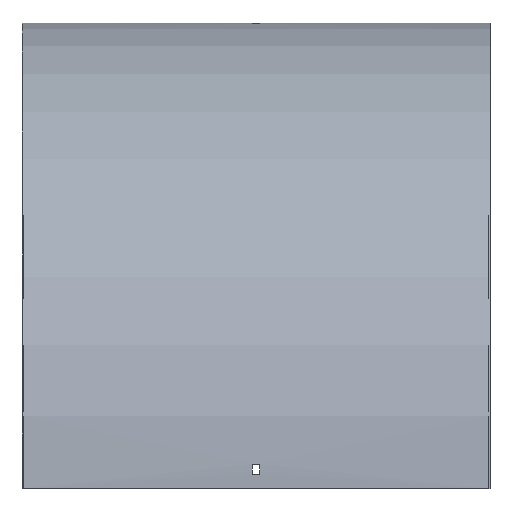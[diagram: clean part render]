
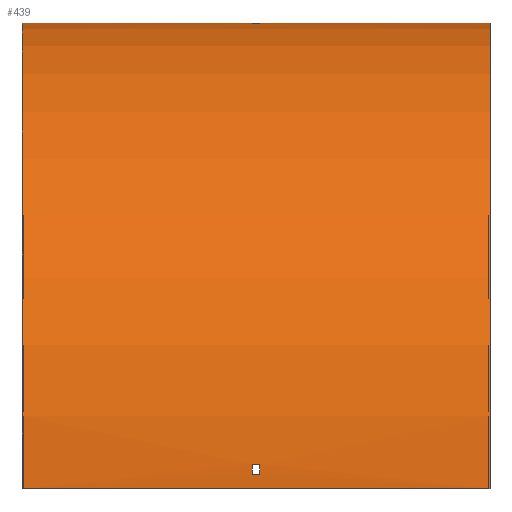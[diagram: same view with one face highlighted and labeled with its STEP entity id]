
A CAD part, top view. The second image highlights one B-rep face of the part: STEP entity #439.
In plain terms, the highlighted cylindrical face has radius 401.5 mm (diameter 803 mm), a partial arc.
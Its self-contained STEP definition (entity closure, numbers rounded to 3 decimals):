
#1 = EDGE_CURVE ( 'NONE', #607, #299, #515, .T. ) ;
#5 = VERTEX_POINT ( 'NONE', #279 ) ;
#7 = AXIS2_PLACEMENT_3D ( 'NONE', #180, #556, #363 ) ;
#13 = DIRECTION ( 'NONE',  ( 1., 0., 0. ) ) ;
#31 = EDGE_CURVE ( 'NONE', #5, #359, #322, .T. ) ;
#39 = EDGE_CURVE ( 'NONE', #564, #282, #468, .T. ) ;
#40 = CARTESIAN_POINT ( 'NONE',  ( 3.25, -401.5, 0. ) ) ;
#43 = DIRECTION ( 'NONE',  ( -1., 0., 0. ) ) ;
#44 = CIRCLE ( 'NONE', #288, 401.5 ) ;
#45 = CARTESIAN_POINT ( 'NONE',  ( -201.5, -401.5, 401.5 ) ) ;
#46 = VERTEX_POINT ( 'NONE', #508 ) ;
#48 = VERTEX_POINT ( 'NONE', #318 ) ;
#54 = EDGE_LOOP ( 'NONE', ( #302, #139, #350, #518 ) ) ;
#65 = VECTOR ( 'NONE', #43, 1000. ) ;
#82 = EDGE_CURVE ( 'NONE', #393, #359, #461, .T. ) ;
#86 = CARTESIAN_POINT ( 'NONE',  ( -201.5, 0., 0. ) ) ;
#90 = CARTESIAN_POINT ( 'NONE',  ( 201.5, -401.5, 401.5 ) ) ;
#93 = FACE_OUTER_BOUND ( 'NONE', #357, .T. ) ;
#95 = EDGE_CURVE ( 'NONE', #397, #607, #44, .T. ) ;
#99 = EDGE_CURVE ( 'NONE', #331, #5, #190, .T. ) ;
#107 = CARTESIAN_POINT ( 'NONE',  ( 201.5, -401.5, 0. ) ) ;
#111 = AXIS2_PLACEMENT_3D ( 'NONE', #224, #410, #603 ) ;
#112 = AXIS2_PLACEMENT_3D ( 'NONE', #40, #409, #276 ) ;
#123 = ORIENTED_EDGE ( 'NONE', *, *, #414, .T. ) ;
#128 = FACE_BOUND ( 'NONE', #54, .T. ) ;
#134 = EDGE_CURVE ( 'NONE', #272, #48, #245, .T. ) ;
#135 = CARTESIAN_POINT ( 'NONE',  ( 201.5, 0., 0. ) ) ;
#139 = ORIENTED_EDGE ( 'NONE', *, *, #561, .F. ) ;
#153 = EDGE_LOOP ( 'NONE', ( #567, #123, #312, #179 ) ) ;
#155 = DIRECTION ( 'NONE',  ( -1., 0., 0. ) ) ;
#161 = CARTESIAN_POINT ( 'NONE',  ( -3.25, -389.5, 401.321 ) ) ;
#179 = ORIENTED_EDGE ( 'NONE', *, *, #392, .T. ) ;
#180 = CARTESIAN_POINT ( 'NONE',  ( 201.5, -401.5, 0. ) ) ;
#183 = CYLINDRICAL_SURFACE ( 'NONE', #7, 401.5 ) ;
#190 = CIRCLE ( 'NONE', #471, 401.5 ) ;
#194 = DIRECTION ( 'NONE',  ( 1., 0., 0. ) ) ;
#198 = ORIENTED_EDGE ( 'NONE', *, *, #82, .T. ) ;
#218 = AXIS2_PLACEMENT_3D ( 'NONE', #260, #447, #442 ) ;
#224 = CARTESIAN_POINT ( 'NONE',  ( -201.5, -401.5, 0. ) ) ;
#226 = CARTESIAN_POINT ( 'NONE',  ( 201.5, -0.179, 12. ) ) ;
#245 = LINE ( 'NONE', #430, #296 ) ;
#260 = CARTESIAN_POINT ( 'NONE',  ( 3.25, -401.5, 0. ) ) ;
#264 = EDGE_CURVE ( 'NONE', #299, #46, #403, .T. ) ;
#269 = CARTESIAN_POINT ( 'NONE',  ( 3.25, -389.5, 401.321 ) ) ;
#272 = VERTEX_POINT ( 'NONE', #353 ) ;
#276 = DIRECTION ( 'NONE',  ( 0., 0., -1. ) ) ;
#279 = CARTESIAN_POINT ( 'NONE',  ( 201.5, -401.5, 401.5 ) ) ;
#282 = VERTEX_POINT ( 'NONE', #308 ) ;
#288 = AXIS2_PLACEMENT_3D ( 'NONE', #319, #520, #566 ) ;
#296 = VECTOR ( 'NONE', #479, 1000. ) ;
#299 = VERTEX_POINT ( 'NONE', #269 ) ;
#302 = ORIENTED_EDGE ( 'NONE', *, *, #95, .F. ) ;
#308 = CARTESIAN_POINT ( 'NONE',  ( 3.25, -0.179, 12. ) ) ;
#312 = ORIENTED_EDGE ( 'NONE', *, *, #39, .T. ) ;
#318 = CARTESIAN_POINT ( 'NONE',  ( -3.25, -0.55, 21. ) ) ;
#319 = CARTESIAN_POINT ( 'NONE',  ( -3.25, -401.5, 0. ) ) ;
#322 = LINE ( 'NONE', #90, #65 ) ;
#328 = DIRECTION ( 'NONE',  ( 0., 0., 1. ) ) ;
#331 = VERTEX_POINT ( 'NONE', #496 ) ;
#336 = LINE ( 'NONE', #572, #505 ) ;
#337 = DIRECTION ( 'NONE',  ( 0., 0., -1. ) ) ;
#350 = ORIENTED_EDGE ( 'NONE', *, *, #264, .F. ) ;
#353 = CARTESIAN_POINT ( 'NONE',  ( 3.25, -0.55, 21. ) ) ;
#357 = EDGE_LOOP ( 'NONE', ( #198, #453, #377, #456 ) ) ;
#359 = VERTEX_POINT ( 'NONE', #45 ) ;
#363 = DIRECTION ( 'NONE',  ( 0., 0., 1. ) ) ;
#368 = DIRECTION ( 'NONE',  ( 1., 0., 0. ) ) ;
#370 = FACE_BOUND ( 'NONE', #153, .T. ) ;
#374 = VECTOR ( 'NONE', #368, 1000. ) ;
#377 = ORIENTED_EDGE ( 'NONE', *, *, #99, .F. ) ;
#379 = EDGE_CURVE ( 'NONE', #331, #393, #550, .T. ) ;
#392 = EDGE_CURVE ( 'NONE', #282, #272, #451, .T. ) ;
#393 = VERTEX_POINT ( 'NONE', #86 ) ;
#394 = AXIS2_PLACEMENT_3D ( 'NONE', #464, #467, #328 ) ;
#397 = VERTEX_POINT ( 'NONE', #457 ) ;
#403 = CIRCLE ( 'NONE', #218, 401.5 ) ;
#409 = DIRECTION ( 'NONE',  ( 1., 0., 0. ) ) ;
#410 = DIRECTION ( 'NONE',  ( 1., 0., 0. ) ) ;
#414 = EDGE_CURVE ( 'NONE', #48, #564, #535, .T. ) ;
#421 = CARTESIAN_POINT ( 'NONE',  ( -3.25, -0.179, 12. ) ) ;
#430 = CARTESIAN_POINT ( 'NONE',  ( 201.5, -0.55, 21. ) ) ;
#439 = ADVANCED_FACE ( 'NONE', ( #93, #370, #128 ), #183, .T. ) ;
#442 = DIRECTION ( 'NONE',  ( 0., 0., 1. ) ) ;
#447 = DIRECTION ( 'NONE',  ( -1., 0., 0. ) ) ;
#451 = CIRCLE ( 'NONE', #112, 401.5 ) ;
#453 = ORIENTED_EDGE ( 'NONE', *, *, #31, .F. ) ;
#456 = ORIENTED_EDGE ( 'NONE', *, *, #379, .T. ) ;
#457 = CARTESIAN_POINT ( 'NONE',  ( -3.25, -380.5, 400.95 ) ) ;
#458 = CARTESIAN_POINT ( 'NONE',  ( 201.5, -389.5, 401.321 ) ) ;
#461 = CIRCLE ( 'NONE', #111, 401.5 ) ;
#464 = CARTESIAN_POINT ( 'NONE',  ( -3.25, -401.5, 0. ) ) ;
#467 = DIRECTION ( 'NONE',  ( -1., 0., 0. ) ) ;
#468 = LINE ( 'NONE', #226, #482 ) ;
#471 = AXIS2_PLACEMENT_3D ( 'NONE', #107, #13, #337 ) ;
#479 = DIRECTION ( 'NONE',  ( -1., 0., 0. ) ) ;
#482 = VECTOR ( 'NONE', #194, 1000. ) ;
#496 = CARTESIAN_POINT ( 'NONE',  ( 201.5, 0., 0. ) ) ;
#505 = VECTOR ( 'NONE', #155, 1000. ) ;
#508 = CARTESIAN_POINT ( 'NONE',  ( 3.25, -380.5, 400.95 ) ) ;
#515 = LINE ( 'NONE', #458, #374 ) ;
#518 = ORIENTED_EDGE ( 'NONE', *, *, #1, .F. ) ;
#520 = DIRECTION ( 'NONE',  ( 1., 0., 0. ) ) ;
#535 = CIRCLE ( 'NONE', #394, 401.5 ) ;
#550 = LINE ( 'NONE', #135, #585 ) ;
#552 = DIRECTION ( 'NONE',  ( -1., 0., 0. ) ) ;
#556 = DIRECTION ( 'NONE',  ( -1., 0., 0. ) ) ;
#561 = EDGE_CURVE ( 'NONE', #46, #397, #336, .T. ) ;
#564 = VERTEX_POINT ( 'NONE', #421 ) ;
#566 = DIRECTION ( 'NONE',  ( 0., 1., 0. ) ) ;
#567 = ORIENTED_EDGE ( 'NONE', *, *, #134, .T. ) ;
#572 = CARTESIAN_POINT ( 'NONE',  ( 201.5, -380.5, 400.95 ) ) ;
#585 = VECTOR ( 'NONE', #552, 1000. ) ;
#603 = DIRECTION ( 'NONE',  ( 0., 0., -1. ) ) ;
#607 = VERTEX_POINT ( 'NONE', #161 ) ;
